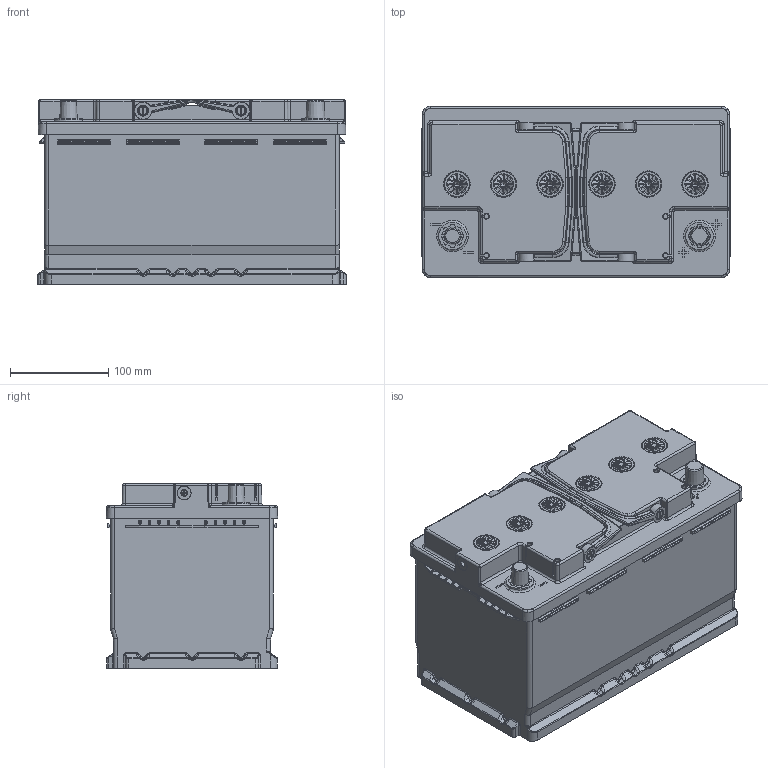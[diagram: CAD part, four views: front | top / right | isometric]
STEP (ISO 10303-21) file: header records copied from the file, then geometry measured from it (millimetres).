
FILE_DESCRIPTION(('CATIA V5 STEP Exchange'),'2;1');
FILE_NAME('C:\Users\bheya\bheya job\AGM outline drawing_CATIA V5R19\30042710_C3K_00_AGM H7.stp','2019-10-12T06:58:02+00:00',('none'),('none'),'CATIA Version 5 Release 19 SP 9 (IN-10)','CATIA V5 STEP AP203','none');
FILE_SCHEMA(('CONFIG_CONTROL_DESIGN'));
Products named in the file (1): 30042710_C3K_00_AGM H7
Bounding box: 314.5 x 174.8 x 188.52 mm (x, y, z)
Volume: 9091563.5 mm3; surface area: 364723.1 mm2
Topology: 1 solids, 1 shells, 6047 faces, 18605 edges, 12660 vertices
Faces by surface type: cylinder 2220, plane 1369, bspline 1228, sphere 750, cone 338, torus 142
Entity records: 249188 total; most frequent: CARTESIAN_POINT 111891, ORIENTED_EDGE 36934, EDGE_CURVE 18467, DIRECTION 17539, VERTEX_POINT 12660, B_SPLINE_CURVE_WITH_KNOTS 7417, AXIS2_PLACEMENT_3D 7136, EDGE_LOOP 6315
